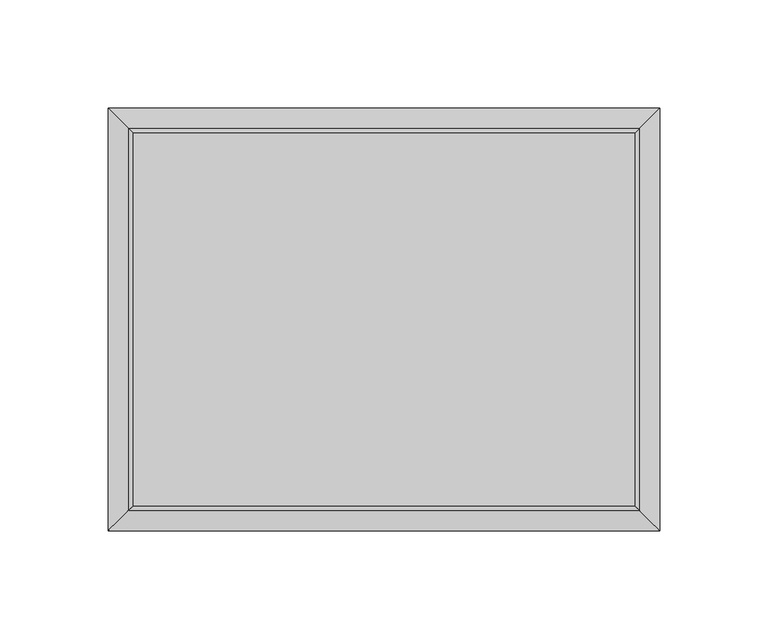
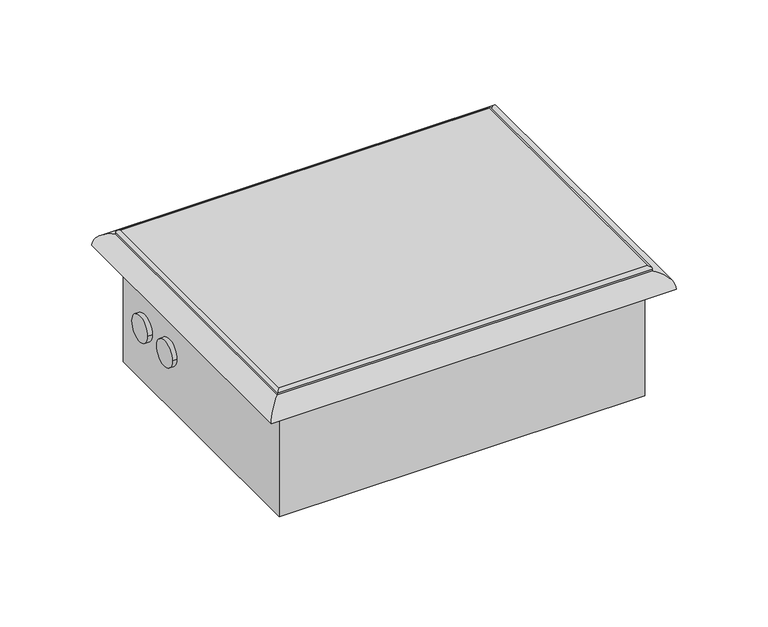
"""IFC4 building model written with IfcOpenShell, lengths in millimetres: proxy geometry, WU-AB 06-100T-EN54 : WU-AB 06-100T-EN54."""

import ifcopenshell
import ifcopenshell.guid

model = None  # the IFC model being written
_history = None  # IfcOwnerHistory: only IFC2X3 demands one
_inside = {}  # id of a spatial element -> (the spatial element, [elements in it])
_under = {}  # id of a project, library or spatial element -> (it, [spatial elements below it])
_declared = {}  # id of a project -> (the project, [libraries it declares])
_typed = {}  # id of a type object -> (the type object, [elements of that type])
_made_of = {}  # id of a material, layer set ... -> (it, [elements and type objects made of it])


def new_model(schema):
    """Start an empty IFC model of exactly this schema.

    Asked for "IFC4X3", IfcOpenShell would pick the latest addendum, in which some entities
    have other attributes; the version numbers below select the first issue.
    IFC2X3 requires an IfcOwnerHistory on every rooted entity: one is made here for all.
    """
    global model, _history
    if schema == "IFC4X3":
        model = ifcopenshell.file(schema_version=(4, 3, 0, 0))
    else:
        model = ifcopenshell.file(schema=schema)
    _inside.clear()
    _under.clear()
    _declared.clear()
    _typed.clear()
    _made_of.clear()
    _history = None
    if model.schema == "IFC2X3":
        org = make("IfcOrganization", Name="unknown")
        user = make(
            "IfcPersonAndOrganization",
            ThePerson=make("IfcPerson", FamilyName="unknown"),
            TheOrganization=org,
        )
        app = make(
            "IfcApplication",
            ApplicationDeveloper=org,
            Version="unknown",
            ApplicationFullName="unknown",
            ApplicationIdentifier="unknown",
        )
        _history = make(
            "IfcOwnerHistory",
            OwningUser=user,
            OwningApplication=app,
            ChangeAction="ADDED",
            CreationDate=0,
        )
    return model


def make(cls, **values):
    """One entity of the class cls with the attributes given. An attribute that is None is left unset."""
    return model.create_entity(
        cls, **{name: value for name, value in values.items() if value is not None}
    )


def rooted(cls, **values):
    """An entity with a GlobalId (a new one), such as an element, a storey or a relation."""
    return make(cls, GlobalId=ifcopenshell.guid.new(), OwnerHistory=_history, **values)


def si_unit(unit_type, name, prefix=None):
    """IfcSIUnit, for example si_unit("LENGTHUNIT", "METRE", prefix="MILLI")."""
    return make("IfcSIUnit", UnitType=unit_type, Prefix=prefix, Name=name)


def assignment(units):
    """IfcUnitAssignment: the units of a project."""
    return None if units is None else make("IfcUnitAssignment", Units=units)


def point(xyz):
    """IfcCartesianPoint."""
    return None if xyz is None else make("IfcCartesianPoint", Coordinates=xyz)


def direction(xyz):
    """IfcDirection."""
    return None if xyz is None else make("IfcDirection", DirectionRatios=xyz)


def frame(location, z_axis=None, x_axis=None):
    """IfcAxis2Placement3D, a coordinate frame: its origin and axes. An axis left out is left unset."""
    return make(
        "IfcAxis2Placement3D",
        Location=point(location),
        Axis=direction(z_axis),
        RefDirection=direction(x_axis),
    )


def origin():
    """The frame at (0, 0, 0) with its axes left unset."""
    return frame((0.0, 0.0, 0.0))


def place(relative_to, where):
    """IfcLocalPlacement: puts the frame where relative to a parent placement (None: the world)."""
    return make(
        "IfcLocalPlacement", PlacementRelTo=relative_to, RelativePlacement=where
    )


def context(
    kind, dimensions, precision=None, world=None, true_north=None, identifier=None
):
    """IfcGeometricRepresentationContext, for example the 3D "Model" context."""
    return make(
        "IfcGeometricRepresentationContext",
        ContextIdentifier=identifier,
        ContextType=kind,
        CoordinateSpaceDimension=dimensions,
        Precision=precision,
        WorldCoordinateSystem=world,
        TrueNorth=true_north,
    )


def project(units=None, contexts=None):
    """IfcProject with its units and contexts."""
    return rooted(
        "IfcProject",
        Name="project",
        RepresentationContexts=contexts,
        UnitsInContext=assignment(units),
    )


def spatial(cls, under=None, at=None, **own):
    """A site, building, storey or space (cls), placed at a placement, below another one or the project."""
    s = rooted(cls, ObjectPlacement=at, **own)
    if under is not None:
        _under.setdefault(under.id(), (under, []))[1].append(s)
    return s


def circle_curve(where, radius):
    """IfcCircle in the frame where."""
    return make("IfcCircle", Position=where, Radius=radius)


def ellipse_curve(where, semi_axis1, semi_axis2):
    """IfcEllipse in the frame where."""
    return make(
        "IfcEllipse", Position=where, SemiAxis1=semi_axis1, SemiAxis2=semi_axis2
    )


def shape(context_of_items, identifier, shape_type, items):
    """IfcShapeRepresentation: the items that make up one representation, for example the "Body"."""
    return make(
        "IfcShapeRepresentation",
        ContextOfItems=context_of_items,
        RepresentationIdentifier=identifier,
        RepresentationType=shape_type,
        Items=items,
    )


def source(mapping_origin, context_of_items, identifier, shape_type, items):
    """IfcRepresentationMap: a shape defined once, which mapped items show again and again."""
    return make(
        "IfcRepresentationMap",
        MappingOrigin=mapping_origin,
        MappedRepresentation=shape(context_of_items, identifier, shape_type, items),
    )


def transform(
    local_origin,
    x_axis=None,
    y_axis=None,
    z_axis=None,
    scale=None,
    scale2=None,
    scale3=None,
    uniform=True,
):
    """IfcCartesianTransformationOperator3D, or its non-uniform kind. x_axis, y_axis, z_axis: its Axis1, 2, 3."""
    if uniform:
        return make(
            "IfcCartesianTransformationOperator3D",
            Axis1=direction(x_axis),
            Axis2=direction(y_axis),
            LocalOrigin=point(local_origin),
            Scale=scale,
            Axis3=direction(z_axis),
        )
    return make(
        "IfcCartesianTransformationOperator3DnonUniform",
        Axis1=direction(x_axis),
        Axis2=direction(y_axis),
        LocalOrigin=point(local_origin),
        Scale=scale,
        Axis3=direction(z_axis),
        Scale2=scale2,
        Scale3=scale3,
    )


def mapped(mapping_source, mapping_target):
    """IfcMappedItem: shows the shape of a source again, moved by a transform."""
    return make(
        "IfcMappedItem", MappingSource=mapping_source, MappingTarget=mapping_target
    )


def made_of(thing, what):
    """Note that an element or type object is made of a material, layer set ...; save() writes the relation."""
    if what is not None:
        _made_of.setdefault(what.id(), (what, []))[1].append(thing)
    return thing


def element(
    cls,
    number,
    at=None,
    inside=None,
    cuts=None,
    type_object=None,
    material=None,
    context=None,
    identifier="Body",
    shape_type=None,
    held_by="IfcProductDefinitionShape",
    body=None,
    shapes=None,
    **own,
):
    """One element of the class cls, such as IfcWall. Its Tag is "e" and its number.

    at: its placement. inside: the storey or other place that contains it. cuts: it is an
    opening in that element (IfcRelVoidsElement). A single representation is given by context,
    identifier, shape_type and body (its items); several are given by shapes. held_by: the class
    of the entity that holds the representations. save() writes the other relations.
    """
    e = rooted(cls, Tag="e%d" % number, ObjectPlacement=at, **own)
    if body is not None:
        shapes = [shape(context, identifier, shape_type, body)]
    if shapes is not None:
        e.Representation = make(held_by, Representations=shapes)
    if inside is not None:
        _inside.setdefault(inside.id(), (inside, []))[1].append(e)
    if cuts is not None:
        rooted(
            "IfcRelVoidsElement", RelatingBuildingElement=cuts, RelatedOpeningElement=e
        )
    if type_object is not None:
        _typed.setdefault(type_object.id(), (type_object, []))[1].append(e)
    return made_of(e, material)


def aggregate(whole, parts):
    """IfcRelAggregates: a whole, such as a stair, and the parts it consists of."""
    return rooted("IfcRelAggregates", RelatingObject=whole, RelatedObjects=parts)


def save(model, path):
    """Write the relations noted so far, then the file.

    IfcRelAggregates (storeys below a building ...), IfcRelContainedInSpatialStructure (elements
    in a storey), IfcRelDefinesByType, IfcRelAssociatesMaterial and IfcRelDeclares: one each for
    every whole, place, type object, material and project.
    """
    for whole, parts in _under.values():
        aggregate(whole, parts)
    for where, things in _inside.values():
        rooted(
            "IfcRelContainedInSpatialStructure",
            RelatedElements=things,
            RelatingStructure=where,
        )
    for kind, things in _typed.values():
        rooted("IfcRelDefinesByType", RelatedObjects=things, RelatingType=kind)
    for what, things in _made_of.values():
        rooted("IfcRelAssociatesMaterial", RelatedObjects=things, RelatingMaterial=what)
    for by, libraries in _declared.values():
        rooted("IfcRelDeclares", RelatingContext=by, RelatedDefinitions=libraries)
    model.write(path)


def plane_surface(at):
    """IfcPlane: the flat surface through the origin of the frame at, square to its z axis."""
    return make("IfcPlane", Position=at)


def cylinder_surface(at, radius):
    """IfcCylindricalSurface: all points at the distance radius from the z axis of the frame at."""
    return make("IfcCylindricalSurface", Position=at, Radius=radius)


def advanced_brep(points, edges, surfaces, faces):
    """IfcAdvancedBrep: a solid bounded by faces that lie on surfaces and meet in shared edges.

    An edge is (start, end): straight between two places in points (the first is 0);
    or (start, end, curve); or (start, end, curve, False) where it runs against its curve.
    A face is (place in surfaces, loops), or (place, loops, False) where it looks against
    its surface's normal. A loop lists edges by number (the first is 1), with a minus sign
    where the edge is run from its end to its start. The first loop is the outer one.
    """
    corners = [point(p) for p in points]
    vertices = [make("IfcVertexPoint", VertexGeometry=c) for c in corners]
    made = []
    for start, end, *more in edges:
        made.append(
            make(
                "IfcEdgeCurve",
                EdgeStart=vertices[start],
                EdgeEnd=vertices[end],
                EdgeGeometry=more[0] if more else make("IfcPolyline", Points=[corners[start], corners[end]]),
                SameSense=more[1] if len(more) > 1 else True,
            )
        )
    hull = []
    for where, loops, *sense in faces:
        bounds = []
        for j, loop in enumerate(loops):
            ring = [make("IfcOrientedEdge", EdgeElement=made[abs(k) - 1], Orientation=k > 0) for k in loop]
            bounds.append(
                make(
                    "IfcFaceOuterBound" if j == 0 else "IfcFaceBound",
                    Bound=make("IfcEdgeLoop", EdgeList=ring),
                    Orientation=True,
                )
            )
        hull.append(make("IfcAdvancedFace", Bounds=bounds, FaceSurface=surfaces[where], SameSense=sense[0] if sense else True))
    return make("IfcAdvancedBrep", Outer=make("IfcClosedShell", CfsFaces=hull))


def communication_devices_045dbd60(model_context):
    return source(origin(), model_context, "Body", "AdvancedBrep", [
        advanced_brep(
        [(-115.9967558, 86.25, 13.0), (-115.9967558, -86.25, 13.0), (116.0000139, -86.25, 13.0), (116.0000139, 86.25, 13.0), (-114.7467558, -85.0, 12.0), (-114.7467558, 85.0, 12.0), (114.7500139, 85.0, 12.0), (114.7500139, -85.0, 12.0), (-117.9967558, -88.25, 9.987572), (-117.9967558, -88.25, 11.0), (-117.9967558, 88.25, 11.0), (-117.9967558, 88.25, 9.987572), (-114.7467558, -85.0, 9.987572), (-114.7467558, 85.0, 9.987572), (118.0000139, 88.25, 11.0), (118.0000139, 88.25, 9.987572), (114.7500139, 85.0, 9.987572), (118.0000139, -88.25, 11.0), (118.0000139, -88.25, 9.987572), (114.7500139, -85.0, 9.987572)],
        [
            (0, 1),
            (1, 2),
            (2, 3),
            (3, 0),
            (4, 5),
            (5, 6),
            (6, 7),
            (7, 4),
            (8, 9),
            (9, 10),
            (10, 11),
            (11, 8),
            (12, 13),
            (13, 5),
            (4, 12),
            (9, 1, ellipse_curve(frame((-115.9967558, -86.25, 11.0), z_axis=(-0.7071067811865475, 0.7071067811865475, 0.0), x_axis=(-0.7071067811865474, -0.7071067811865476, 0.0)), 2.8284271, 2.0)),
            (0, 10, ellipse_curve(frame((-115.9967558, 86.25, 11.0), z_axis=(-0.7071067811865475, -0.7071067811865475, 0.0), x_axis=(0.7071067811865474, -0.7071067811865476, 0.0)), 2.8284271, 2.0)),
            (10, 14),
            (14, 15),
            (15, 11),
            (13, 16),
            (16, 6),
            (3, 14, ellipse_curve(frame((116.0000139, 86.25, 11.0), z_axis=(-0.7071067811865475, 0.7071067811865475, 0.0), x_axis=(-0.7071067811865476, -0.7071067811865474, 0.0)), 2.8284271, 2.0)),
            (14, 17),
            (17, 18),
            (18, 15),
            (16, 19),
            (19, 7),
            (2, 17, ellipse_curve(frame((116.0000139, -86.25, 11.0), z_axis=(0.7071067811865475, 0.7071067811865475, 0.0), x_axis=(-0.7071067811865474, 0.7071067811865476, 0.0)), 2.8284271, 2.0)),
            (8, 18),
            (17, 9),
            (12, 19),
        ],
        [
            plane_surface(frame((-114.7467558, 85.0, 13.0), z_axis=(0.0, 0.0, 1.0), x_axis=(-1.0, 0.0, 0.0))),
            plane_surface(frame((-114.7467558, 85.0, 12.0), z_axis=(0.0, 0.0, -1.0), x_axis=(1.0, 0.0, 0.0))),
            plane_surface(frame((-117.9967558, -88.25, 11.0), z_axis=(-1.0, 0.0, 0.0), x_axis=(0.0, 1.0, 0.0))),
            plane_surface(frame((-114.7467558, -85.0, 9.987572), z_axis=(1.0, 0.0, 0.0), x_axis=(0.0, 1.0, 0.0))),
            cylinder_surface(frame((-115.9967558, -87.753236, 11.0), z_axis=(0.0, -1.0, 0.0), x_axis=(-1.0, 0.0, 0.0)), 2.0),
            plane_surface(frame((-117.9967558, 88.25, 11.0), z_axis=(0.0, 1.0, 0.0), x_axis=(1.0, 0.0, 0.0))),
            plane_surface(frame((-114.7467558, 85.0, 9.987572), z_axis=(0.0, -1.0, 0.0), x_axis=(1.0, 0.0, 0.0))),
            cylinder_surface(frame((-117.4999918, 86.25, 11.0), z_axis=(-1.0, 0.0, 0.0), x_axis=(0.0, 1.0, 0.0)), 2.0),
            plane_surface(frame((118.0000139, 88.25, 11.0), z_axis=(1.0, 0.0, 0.0), x_axis=(0.0, -1.0, 0.0))),
            plane_surface(frame((114.7500139, 85.0, 9.987572), z_axis=(-1.0, 0.0, 0.0), x_axis=(0.0, -1.0, 0.0))),
            cylinder_surface(frame((116.0000139, 87.753236, 11.0), z_axis=(0.0, 1.0, 0.0), x_axis=(1.0, 0.0, 0.0)), 2.0),
            plane_surface(frame((118.0000139, -88.25, 11.0), z_axis=(0.0, -1.0, 0.0), x_axis=(-1.0, 0.0, 0.0))),
            plane_surface(frame((118.0000139, -88.25, 9.987572), z_axis=(0.0, 0.0, -1.0), x_axis=(-1.0, 0.0, 0.0))),
            plane_surface(frame((114.7500139, -85.0, 9.987572), z_axis=(0.0, 1.0, 0.0), x_axis=(-1.0, 0.0, 0.0))),
            cylinder_surface(frame((117.50325, -86.25, 11.0), z_axis=(1.0, 0.0, 0.0), x_axis=(0.0, -1.0, 0.0)), 2.0),
        ],
        [
            (0, [[1, 2, 3, 4]]),
            (1, [[5, 6, 7, 8]]),
            (2, [[9, 10, 11, 12]]),
            (3, [[13, 14, -5, 15]]),
            (4, [[-10, 16, -1, 17]]),
            (5, [[-11, 18, 19, 20]]),
            (6, [[21, 22, -6, -14]]),
            (7, [[-17, -4, 23, -18]]),
            (8, [[-19, 24, 25, 26]]),
            (9, [[27, 28, -7, -22]]),
            (10, [[-23, -3, 29, -24]]),
            (11, [[-9, 30, -25, 31]]),
            (12, [[-12, -20, -26, -30], [-13, 32, -27, -21]]),
            (13, [[-32, -15, -8, -28]]),
            (14, [[-16, -31, -29, -2]]),
        ],
    ),
        advanced_brep(
        [(115.000008, 85.0, -74.0), (115.000008, -85.0, -74.0), (-115.000008, -85.0, -74.0), (-115.000008, 85.0, -74.0), (115.000008, 85.0, 0.0), (-115.000008, 85.0, 0.0), (-115.000008, -85.0, 0.0), (115.000008, -85.0, 0.0), (-115.000008, 70.5, -37.0), (-115.000008, 53.5, -37.0), (-115.000008, 43.5, -37.000001), (-115.000008, 26.5, -37.000001), (115.000008, -70.5, -37.0), (115.000008, -53.5, -37.0), (115.000008, -43.5, -37.000001), (115.000008, -26.5, -37.000001), (-118.000008, 70.5, -37.0), (-118.000008, 53.5, -37.0), (-118.000008, 43.5, -37.000001), (-118.000008, 26.5, -37.000001), (118.000008, -70.5, -37.0), (118.000008, -53.5, -37.0), (118.000008, -43.5, -37.000001), (118.000008, -26.5, -37.000001)],
        [
            (0, 1),
            (1, 2),
            (2, 3),
            (3, 0),
            (4, 5),
            (5, 6),
            (6, 7),
            (7, 4),
            (3, 5),
            (4, 0),
            (2, 6),
            (8, 9, circle_curve(frame((-115.000008, 62.0, -37.0), z_axis=(1.0, 0.0, 0.0), x_axis=(0.0, -1.0, 0.0)), 8.5)),
            (9, 8, circle_curve(frame((-115.000008, 62.0, -37.0), z_axis=(1.0, 0.0, 0.0), x_axis=(0.0, -1.0, 0.0)), 8.5)),
            (10, 11, circle_curve(frame((-115.000008, 35.0, -37.000001), z_axis=(1.0, 0.0, 0.0), x_axis=(0.0, -1.0, 0.0)), 8.5)),
            (11, 10, circle_curve(frame((-115.000008, 35.0, -37.000001), z_axis=(1.0, 0.0, 0.0), x_axis=(0.0, -1.0, 0.0)), 8.5)),
            (1, 7),
            (12, 13, circle_curve(frame((115.000008, -62.0, -37.0), z_axis=(-1.0, 0.0, 0.0), x_axis=(0.0, 1.0, 0.0)), 8.5)),
            (13, 12, circle_curve(frame((115.000008, -62.0, -37.0), z_axis=(-1.0, 0.0, 0.0), x_axis=(0.0, 1.0, 0.0)), 8.5)),
            (14, 15, circle_curve(frame((115.000008, -35.0, -37.000001), z_axis=(-1.0, 0.0, 0.0), x_axis=(0.0, 1.0, 0.0)), 8.5)),
            (15, 14, circle_curve(frame((115.000008, -35.0, -37.000001), z_axis=(-1.0, 0.0, 0.0), x_axis=(0.0, 1.0, 0.0)), 8.5)),
            (16, 17, circle_curve(frame((-118.000008, 62.0, -37.0), z_axis=(-1.0, 0.0, 0.0), x_axis=(0.0, -1.0, 0.0)), 8.5)),
            (17, 16, circle_curve(frame((-118.000008, 62.0, -37.0), z_axis=(-1.0, 0.0, 0.0), x_axis=(0.0, -1.0, 0.0)), 8.5)),
            (18, 19, circle_curve(frame((-118.000008, 35.0, -37.000001), z_axis=(-1.0, 0.0, 0.0), x_axis=(0.0, -1.0, 0.0)), 8.5)),
            (19, 18, circle_curve(frame((-118.000008, 35.0, -37.000001), z_axis=(-1.0, 0.0, 0.0), x_axis=(0.0, -1.0, 0.0)), 8.5)),
            (17, 9),
            (8, 16),
            (19, 11),
            (10, 18),
            (20, 21, circle_curve(frame((118.000008, -62.0, -37.0), z_axis=(1.0, 0.0, 0.0), x_axis=(0.0, 1.0, 0.0)), 8.5)),
            (21, 20, circle_curve(frame((118.000008, -62.0, -37.0), z_axis=(1.0, 0.0, 0.0), x_axis=(0.0, 1.0, 0.0)), 8.5)),
            (22, 23, circle_curve(frame((118.000008, -35.0, -37.000001), z_axis=(1.0, 0.0, 0.0), x_axis=(0.0, 1.0, 0.0)), 8.5)),
            (23, 22, circle_curve(frame((118.000008, -35.0, -37.000001), z_axis=(1.0, 0.0, 0.0), x_axis=(0.0, 1.0, 0.0)), 8.5)),
            (21, 13),
            (12, 20),
            (23, 15),
            (14, 22),
        ],
        [
            plane_surface(frame((-115.499992, 85.0, -74.0), z_axis=(0.0, 0.0, -1.0), x_axis=(1.0, 0.0, 0.0))),
            plane_surface(frame((-115.499992, 85.0, 0.0), z_axis=(0.0, 0.0, 1.0), x_axis=(-1.0, 0.0, 0.0))),
            plane_surface(frame((115.000008, 85.0, 0.0), z_axis=(0.0, 1.0, 0.0), x_axis=(0.0, 0.0, -1.0))),
            plane_surface(frame((-115.000008, 85.0, 0.0), z_axis=(-1.0, 0.0, 0.0), x_axis=(0.0, 0.0, -1.0))),
            plane_surface(frame((-115.000008, -85.0, 0.0), z_axis=(0.0, -1.0, 0.0), x_axis=(0.0, 0.0, -1.0))),
            plane_surface(frame((115.000008, -85.0, 0.0), z_axis=(1.0, 0.0, 0.0), x_axis=(0.0, 0.0, -1.0))),
            plane_surface(frame((-118.000008, 53.5, -37.0), z_axis=(-1.0, 0.0, 0.0), x_axis=(0.0, 0.0, 1.0))),
            cylinder_surface(frame((-115.000008, 62.0, -37.0), z_axis=(-1.0, 0.0, 0.0), x_axis=(0.0, -1.0, 0.0)), 8.5),
            cylinder_surface(frame((0.0, 35.0, -37.000001), z_axis=(-1.0, 0.0, 0.0), x_axis=(0.0, -1.0, 0.0)), 8.5),
            plane_surface(frame((118.000008, -53.5, -37.0), z_axis=(1.0, 0.0, 0.0), x_axis=(0.0, 0.0, 1.0))),
            cylinder_surface(frame((115.000008, -62.0, -37.0), z_axis=(1.0, 0.0, 0.0), x_axis=(0.0, 1.0, 0.0)), 8.5),
            cylinder_surface(frame((0.0, -35.0, -37.000001), z_axis=(1.0, 0.0, 0.0), x_axis=(0.0, 1.0, 0.0)), 8.5),
        ],
        [
            (0, [[1, 2, 3, 4]]),
            (1, [[5, 6, 7, 8]]),
            (2, [[-4, 9, -5, 10]]),
            (3, [[-3, 11, -6, -9], [12, 13], [14, 15]]),
            (4, [[-2, 16, -7, -11]]),
            (5, [[-1, -10, -8, -16], [17, 18], [19, 20]]),
            (6, [[21, 22]]),
            (6, [[23, 24]]),
            (7, [[-22, 25, -12, 26]]),
            (7, [[-21, -26, -13, -25]]),
            (8, [[-24, 27, -14, 28]]),
            (8, [[-23, -28, -15, -27]]),
            (9, [[29, 30]]),
            (9, [[31, 32]]),
            (10, [[-30, 33, -17, 34]]),
            (10, [[-29, -34, -18, -33]]),
            (11, [[-32, 35, -19, 36]]),
            (11, [[-31, -36, -20, -35]]),
        ],
    ),
        advanced_brep(
        [(114.7500139, 85.0, 9.9999995), (114.7500139, 85.0, 0.0), (114.7500139, -85.0, 0.0), (114.7500139, -85.0, 9.9999995), (127.5000139, 97.75, 0.0), (117.50325, 87.753236, 9.9999995), (117.50325, -87.753236, 9.9999995), (127.5000139, -97.75, 0.0), (-114.7499979, -85.0, 0.0), (-114.7499979, -85.0, 9.9999995), (-117.503234, -87.753236, 9.9999995), (-127.4999979, -97.75, 0.0), (-114.7499979, 85.0, 0.0), (-114.7499979, 85.0, 9.9999995), (-117.503234, 87.753236, 9.9999995), (-127.4999979, 97.75, 0.0)],
        [
            (0, 1),
            (1, 2),
            (2, 3),
            (3, 0),
            (4, 5, ellipse_curve(frame((117.5000139, 87.75, 0.0), z_axis=(0.7071067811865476, -0.7071067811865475, 0.0), x_axis=(0.7071067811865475, 0.7071067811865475, 0.0)), 14.1421356, 10.0)),
            (5, 6),
            (6, 7, ellipse_curve(frame((117.5000139, -87.75, 0.0), z_axis=(0.7071067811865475, 0.7071067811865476, 0.0), x_axis=(-0.7071067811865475, 0.7071067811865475, 0.0)), 14.1421356, 10.0)),
            (7, 4),
            (2, 8),
            (8, 9),
            (9, 3),
            (6, 10),
            (10, 11, ellipse_curve(frame((-117.4999979, -87.75, 0.0), z_axis=(0.7071067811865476, -0.7071067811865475, 0.0), x_axis=(0.7071067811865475, 0.7071067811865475, 0.0)), 14.1421356, 10.0)),
            (11, 7),
            (8, 12),
            (12, 13),
            (13, 9),
            (10, 14),
            (14, 15, ellipse_curve(frame((-117.4999979, 87.75, 0.0), z_axis=(-0.7071067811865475, -0.7071067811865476, 0.0), x_axis=(0.7071067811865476, -0.7071067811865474, 0.0)), 14.1421356, 10.0)),
            (15, 11),
            (15, 4),
            (1, 12),
            (0, 13),
            (5, 14),
        ],
        [
            plane_surface(frame((114.7500139, 85.0, 0.0), z_axis=(-1.0, 0.0, 0.0), x_axis=(0.0, -1.0, 0.0))),
            cylinder_surface(frame((117.5000139, 97.7499932, 0.0), z_axis=(0.0, 1.0, 0.0), x_axis=(1.0, 0.0, 0.0)), 10.0),
            plane_surface(frame((114.7500139, -85.0, 0.0), z_axis=(0.0, 1.0, 0.0), x_axis=(-1.0, 0.0, 0.0))),
            cylinder_surface(frame((127.5000071, -87.75, 0.0), z_axis=(1.0, 0.0, 0.0), x_axis=(0.0, -1.0, 0.0)), 10.0),
            plane_surface(frame((-114.7499979, -85.0, 0.0), z_axis=(1.0, 0.0, 0.0), x_axis=(0.0, 1.0, 0.0))),
            cylinder_surface(frame((-117.4999979, -97.7499932, 0.0), z_axis=(0.0, -1.0, 0.0), x_axis=(-1.0, 0.0, 0.0)), 10.0),
            plane_surface(frame((-127.4999979, 97.75, 0.0), z_axis=(0.0, 0.0, -1.0), x_axis=(1.0, 0.0, 0.0))),
            plane_surface(frame((-114.7499979, 85.0, 0.0), z_axis=(0.0, -1.0, 0.0), x_axis=(1.0, 0.0, 0.0))),
            plane_surface(frame((-114.7499979, 85.0, 9.9999995), z_axis=(0.0, 0.0, 1.0), x_axis=(1.0, 0.0, 0.0))),
            cylinder_surface(frame((-127.4999911, 87.75, 0.0), z_axis=(-1.0, 0.0, 0.0), x_axis=(0.0, 1.0, 0.0)), 10.0),
        ],
        [
            (0, [[1, 2, 3, 4]]),
            (1, [[5, 6, 7, 8]]),
            (2, [[-3, 9, 10, 11]]),
            (3, [[-7, 12, 13, 14]]),
            (4, [[-10, 15, 16, 17]]),
            (5, [[-13, 18, 19, 20]]),
            (6, [[-14, -20, 21, -8], [22, -15, -9, -2]]),
            (7, [[-16, -22, -1, 23]]),
            (8, [[24, -18, -12, -6], [-11, -17, -23, -4]]),
            (9, [[-19, -24, -5, -21]]),
        ],
    ),
    ])


if __name__ == "__main__":
    model = new_model("IFC4")
    model_context = context("Model", 3, world=origin())
    ifc_project = project(units=[si_unit("LENGTHUNIT", "METRE", prefix="MILLI")], contexts=[model_context])
    site = spatial("IfcSite", under=ifc_project)
    building = spatial("IfcBuilding", under=site)
    placement = place(None, origin())
    communication_devices_shape = communication_devices_045dbd60(model_context)
    element("IfcBuildingElementProxy", 1, Name="WU-AB 06-100T-EN54 : WU-AB 06-100T-EN54", ObjectType="WU-AB 06-100T-EN54 : WU-AB 06-100T-EN54", at=placement, inside=building, context=model_context, shape_type="MappedRepresentation", body=[
        mapped(communication_devices_shape, transform((0.0, 0.0, 0.0), x_axis=(1.0, 0.0, 0.0), y_axis=(0.0, 1.0, 0.0), z_axis=(0.0, 0.0, 1.0))),
    ])
    save(model, "model.ifc")
